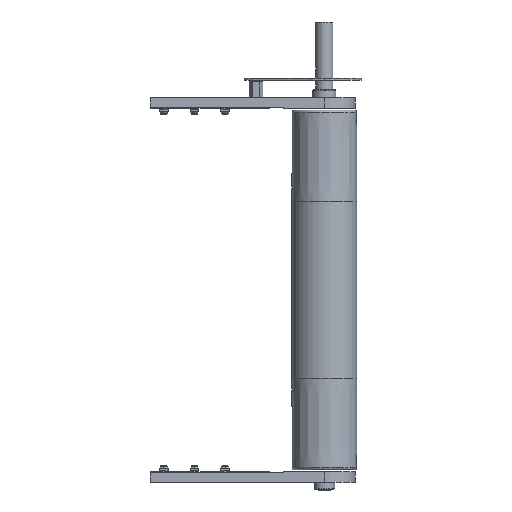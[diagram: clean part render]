
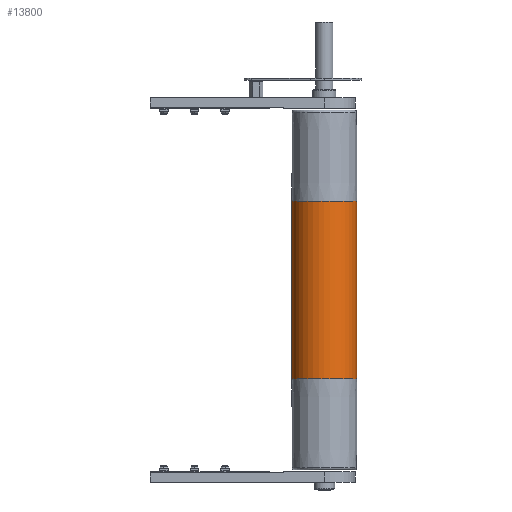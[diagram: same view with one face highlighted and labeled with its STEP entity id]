
A CAD part, front view. The second image highlights one B-rep face of the part: STEP entity #13800.
In plain terms, the highlighted cylindrical face has radius 47.5 mm (diameter 95 mm), a partial arc.
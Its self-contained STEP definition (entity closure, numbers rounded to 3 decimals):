
#529 = VERTEX_POINT ( 'NONE', #6221 ) ;
#533 = VERTEX_POINT ( 'NONE', #6217 ) ;
#534 = VERTEX_POINT ( 'NONE', #6216 ) ;
#963 = AXIS2_PLACEMENT_3D ( 'NONE', #7446, #7444, #7441 ) ;
#965 = AXIS2_PLACEMENT_3D ( 'NONE', #7466, #7464, #7463 ) ;
#3896 = ORIENTED_EDGE ( 'NONE', *, *, #8828, .F. ) ;
#3968 = ORIENTED_EDGE ( 'NONE', *, *, #8846, .F. ) ;
#3970 = ORIENTED_EDGE ( 'NONE', *, *, #8844, .T. ) ;
#3974 = ORIENTED_EDGE ( 'NONE', *, *, #8831, .T. ) ;
#5234 = CYLINDRICAL_SURFACE ( 'NONE', #18399, 47.5 ) ;
#5236 = FACE_OUTER_BOUND ( 'NONE', #9917, .T. ) ;
#6216 = CARTESIAN_POINT ( 'NONE',  ( -47.5, 0., -130. ) ) ;
#6217 = CARTESIAN_POINT ( 'NONE',  ( 47.5, 0., -130. ) ) ;
#6221 = CARTESIAN_POINT ( 'NONE',  ( -47.5, 0., 130. ) ) ;
#7441 = DIRECTION ( 'NONE',  ( 1., 0., 0. ) ) ;
#7444 = DIRECTION ( 'NONE',  ( 0., 0., 1. ) ) ;
#7446 = CARTESIAN_POINT ( 'NONE',  ( 0., 0., 130. ) ) ;
#7463 = DIRECTION ( 'NONE',  ( 1., 0., 0. ) ) ;
#7464 = DIRECTION ( 'NONE',  ( 0., 0., 1. ) ) ;
#7466 = CARTESIAN_POINT ( 'NONE',  ( 0., 0., -130. ) ) ;
#7563 = DIRECTION ( 'NONE',  ( 0., 0., -1. ) ) ;
#7570 = CARTESIAN_POINT ( 'NONE',  ( -47.5, 0., 260. ) ) ;
#7587 = DIRECTION ( 'NONE',  ( 0., 0., -1. ) ) ;
#7588 = CARTESIAN_POINT ( 'NONE',  ( 47.5, 0., 260. ) ) ;
#8828 = EDGE_CURVE ( 'NONE', #15211, #533, #14646, .T. ) ;
#8831 = EDGE_CURVE ( 'NONE', #529, #534, #14642, .T. ) ;
#8844 = EDGE_CURVE ( 'NONE', #534, #533, #14621, .T. ) ;
#8846 = EDGE_CURVE ( 'NONE', #529, #15211, #14618, .T. ) ;
#9917 = EDGE_LOOP ( 'NONE', ( #3896, #3968, #3974, #3970 ) ) ;
#11288 = CARTESIAN_POINT ( 'NONE',  ( 47.5, 0., 130. ) ) ;
#12898 = CARTESIAN_POINT ( 'NONE',  ( 0., 0., 260. ) ) ;
#12906 = DIRECTION ( 'NONE',  ( 0., 0., -1. ) ) ;
#12911 = DIRECTION ( 'NONE',  ( -1., 0., 0. ) ) ;
#13800 = ADVANCED_FACE ( 'NONE', ( #5236 ), #5234, .T. ) ;
#14618 = CIRCLE ( 'NONE', #963, 47.5 ) ;
#14621 = CIRCLE ( 'NONE', #965, 47.5 ) ;
#14640 = VECTOR ( 'NONE', #7563, 1000. ) ;
#14642 = LINE ( 'NONE', #7570, #14640 ) ;
#14644 = VECTOR ( 'NONE', #7587, 1000. ) ;
#14646 = LINE ( 'NONE', #7588, #14644 ) ;
#15211 = VERTEX_POINT ( 'NONE', #11288 ) ;
#18399 = AXIS2_PLACEMENT_3D ( 'NONE', #12898, #12906, #12911 ) ;
